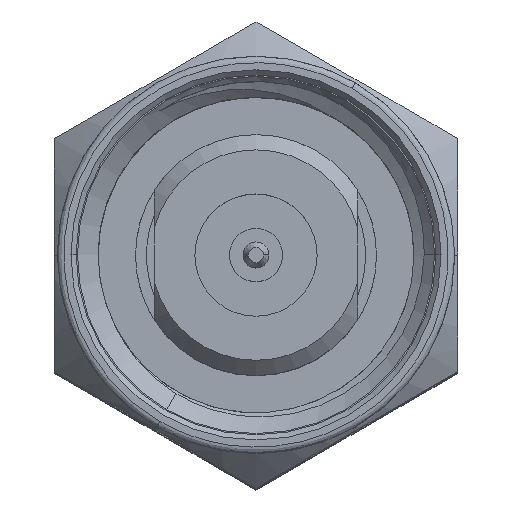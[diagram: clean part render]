
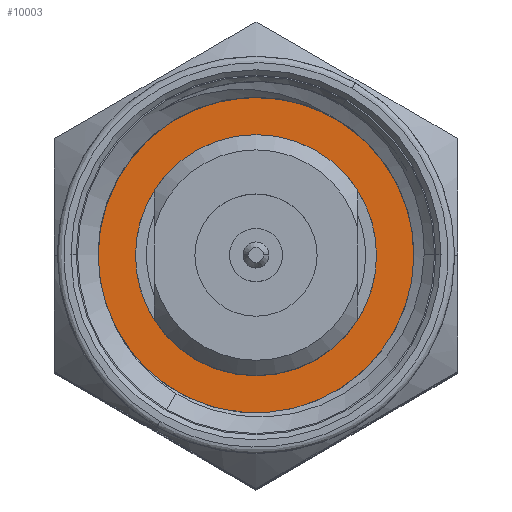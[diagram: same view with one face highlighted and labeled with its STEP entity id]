
A CAD part, top view. The second image highlights one B-rep face of the part: STEP entity #10003.
In plain terms, the highlighted planar face has unit normal (0, 0, 1).
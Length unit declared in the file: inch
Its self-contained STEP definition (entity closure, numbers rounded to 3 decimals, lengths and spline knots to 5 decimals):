
#595 = CIRCLE ( 'NONE', #2018, 0.125 ) ;
#1338 = AXIS2_PLACEMENT_3D ( 'NONE', #9551, #11700, #7016 ) ;
#2018 = AXIS2_PLACEMENT_3D ( 'NONE', #7745, #11167, #8849 ) ;
#2423 = DIRECTION ( 'NONE',  ( 1., 0., 0. ) ) ;
#2632 = FACE_OUTER_BOUND ( 'NONE', #2784, .T. ) ;
#2712 = CIRCLE ( 'NONE', #3896, 0.125 ) ;
#2784 = EDGE_LOOP ( 'NONE', ( #14387, #11505 ) ) ;
#3224 = CARTESIAN_POINT ( 'NONE',  ( 0., 0., 0.12579 ) ) ;
#3761 = ORIENTED_EDGE ( 'NONE', *, *, #7267, .F. ) ;
#3773 = DIRECTION ( 'NONE',  ( 0., 0., 1. ) ) ;
#3896 = AXIS2_PLACEMENT_3D ( 'NONE', #3224, #4337, #7976 ) ;
#3970 = EDGE_LOOP ( 'NONE', ( #3761, #5043 ) ) ;
#4337 = DIRECTION ( 'NONE',  ( 0., 0., -1. ) ) ;
#5043 = ORIENTED_EDGE ( 'NONE', *, *, #8547, .F. ) ;
#5367 = EDGE_CURVE ( 'NONE', #12774, #6927, #2712, .T. ) ;
#5396 = CARTESIAN_POINT ( 'NONE',  ( 0.09311, 0., 0.12579 ) ) ;
#5789 = DIRECTION ( 'NONE',  ( 1., 0., 0. ) ) ;
#6054 = AXIS2_PLACEMENT_3D ( 'NONE', #11302, #6902, #5789 ) ;
#6094 = CARTESIAN_POINT ( 'NONE',  ( -0.125, 0., 0.12579 ) ) ;
#6690 = CARTESIAN_POINT ( 'NONE',  ( -0.09311, 0., 0.12579 ) ) ;
#6738 = VERTEX_POINT ( 'NONE', #6690 ) ;
#6902 = DIRECTION ( 'NONE',  ( 0., 0., 1. ) ) ;
#6927 = VERTEX_POINT ( 'NONE', #6094 ) ;
#7016 = DIRECTION ( 'NONE',  ( -1., 0., 0. ) ) ;
#7164 = PLANE ( 'NONE',  #1338 ) ;
#7267 = EDGE_CURVE ( 'NONE', #11688, #6738, #7446, .T. ) ;
#7446 = CIRCLE ( 'NONE', #13612, 0.09311 ) ;
#7745 = CARTESIAN_POINT ( 'NONE',  ( 0., 0., 0.12579 ) ) ;
#7976 = DIRECTION ( 'NONE',  ( 1., 0., 0. ) ) ;
#8547 = EDGE_CURVE ( 'NONE', #6738, #11688, #12680, .T. ) ;
#8809 = CARTESIAN_POINT ( 'NONE',  ( 0.125, 0., 0.12579 ) ) ;
#8849 = DIRECTION ( 'NONE',  ( 1., 0., 0. ) ) ;
#9345 = EDGE_CURVE ( 'NONE', #6927, #12774, #595, .T. ) ;
#9551 = CARTESIAN_POINT ( 'NONE',  ( -0.09311, 0., 0.12579 ) ) ;
#10003 = ADVANCED_FACE ( 'NONE', ( #2632, #10758 ), #7164, .F. ) ;
#10758 = FACE_BOUND ( 'NONE', #3970, .T. ) ;
#11167 = DIRECTION ( 'NONE',  ( 0., 0., -1. ) ) ;
#11302 = CARTESIAN_POINT ( 'NONE',  ( 0., 0., 0.12579 ) ) ;
#11505 = ORIENTED_EDGE ( 'NONE', *, *, #9345, .F. ) ;
#11688 = VERTEX_POINT ( 'NONE', #5396 ) ;
#11700 = DIRECTION ( 'NONE',  ( 0., 0., -1. ) ) ;
#12606 = CARTESIAN_POINT ( 'NONE',  ( 0., 0., 0.12579 ) ) ;
#12680 = CIRCLE ( 'NONE', #6054, 0.09311 ) ;
#12774 = VERTEX_POINT ( 'NONE', #8809 ) ;
#13612 = AXIS2_PLACEMENT_3D ( 'NONE', #12606, #3773, #2423 ) ;
#14387 = ORIENTED_EDGE ( 'NONE', *, *, #5367, .F. ) ;
